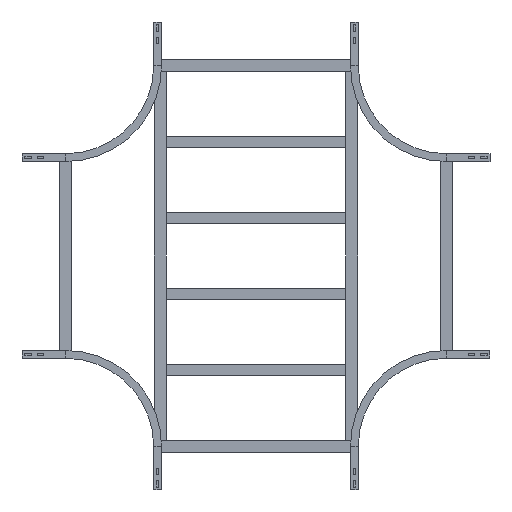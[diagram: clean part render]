
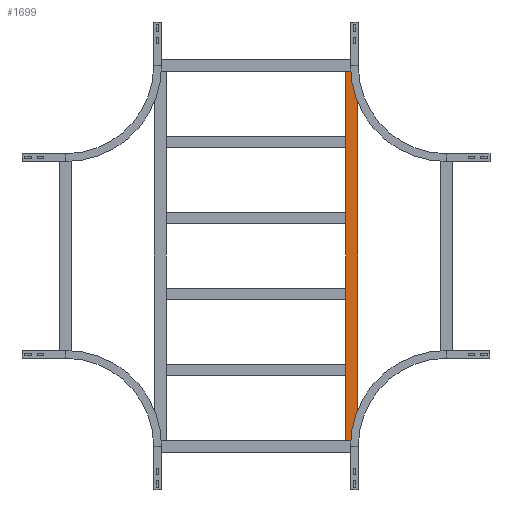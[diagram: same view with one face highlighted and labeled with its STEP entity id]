
A CAD part, front view. The second image highlights one B-rep face of the part: STEP entity #1699.
In plain terms, the highlighted planar face has unit normal (0, -1, 0).
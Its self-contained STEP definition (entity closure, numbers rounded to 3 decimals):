
#180 = DIRECTION ( 'NONE',  ( 0., 1., 0. ) ) ;
#203 = PLANE ( 'NONE',  #1174 ) ;
#205 = VERTEX_POINT ( 'NONE', #593 ) ;
#215 = EDGE_CURVE ( 'NONE', #205, #2465, #244, .T. ) ;
#244 = LINE ( 'NONE', #442, #2023 ) ;
#413 = DIRECTION ( 'NONE',  ( 0., 0., -1. ) ) ;
#431 = LINE ( 'NONE', #445, #1100 ) ;
#442 = CARTESIAN_POINT ( 'NONE',  ( 629.75, 0., 20.25 ) ) ;
#445 = CARTESIAN_POINT ( 'NONE',  ( 629.75, 0., 20.25 ) ) ;
#475 = VECTOR ( 'NONE', #1057, 1000. ) ;
#528 = VERTEX_POINT ( 'NONE', #618 ) ;
#593 = CARTESIAN_POINT ( 'NONE',  ( 629.75, 0., 20.25 ) ) ;
#594 = VECTOR ( 'NONE', #2452, 1000. ) ;
#618 = CARTESIAN_POINT ( 'NONE',  ( -629.75, 0., -20.25 ) ) ;
#671 = CARTESIAN_POINT ( 'NONE',  ( 629.75, 0., -20.25 ) ) ;
#783 = DIRECTION ( 'NONE',  ( 0., 0., 1. ) ) ;
#1002 = CARTESIAN_POINT ( 'NONE',  ( -629.75, 0., 20.25 ) ) ;
#1057 = DIRECTION ( 'NONE',  ( -1., 0., 0. ) ) ;
#1062 = LINE ( 'NONE', #1002, #594 ) ;
#1100 = VECTOR ( 'NONE', #2183, 1000. ) ;
#1174 = AXIS2_PLACEMENT_3D ( 'NONE', #1957, #180, #783 ) ;
#1388 = ORIENTED_EDGE ( 'NONE', *, *, #215, .F. ) ;
#1405 = VERTEX_POINT ( 'NONE', #1778 ) ;
#1491 = LINE ( 'NONE', #2243, #475 ) ;
#1524 = EDGE_CURVE ( 'NONE', #1405, #528, #1062, .T. ) ;
#1699 = ADVANCED_FACE ( 'NONE', ( #2124 ), #203, .F. ) ;
#1726 = ORIENTED_EDGE ( 'NONE', *, *, #1524, .T. ) ;
#1778 = CARTESIAN_POINT ( 'NONE',  ( -629.75, 0., 20.25 ) ) ;
#1957 = CARTESIAN_POINT ( 'NONE',  ( 629.75, 0., 20.25 ) ) ;
#2023 = VECTOR ( 'NONE', #413, 1000. ) ;
#2040 = ORIENTED_EDGE ( 'NONE', *, *, #2072, .F. ) ;
#2072 = EDGE_CURVE ( 'NONE', #2465, #528, #1491, .T. ) ;
#2077 = ORIENTED_EDGE ( 'NONE', *, *, #2266, .T. ) ;
#2124 = FACE_OUTER_BOUND ( 'NONE', #2147, .T. ) ;
#2147 = EDGE_LOOP ( 'NONE', ( #1726, #2040, #1388, #2077 ) ) ;
#2183 = DIRECTION ( 'NONE',  ( -1., 0., 0. ) ) ;
#2243 = CARTESIAN_POINT ( 'NONE',  ( 629.75, 0., -20.25 ) ) ;
#2266 = EDGE_CURVE ( 'NONE', #205, #1405, #431, .T. ) ;
#2452 = DIRECTION ( 'NONE',  ( 0., 0., -1. ) ) ;
#2465 = VERTEX_POINT ( 'NONE', #671 ) ;
